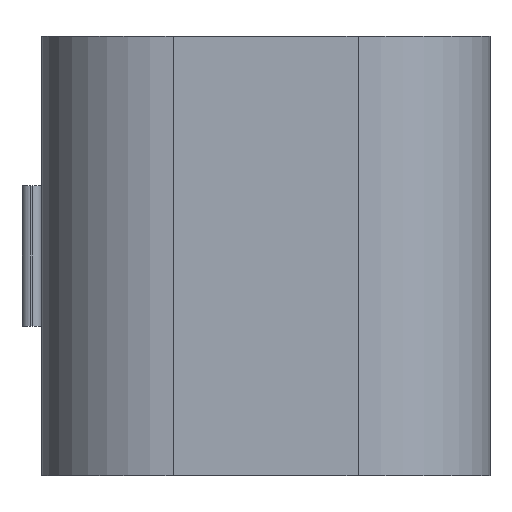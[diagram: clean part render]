
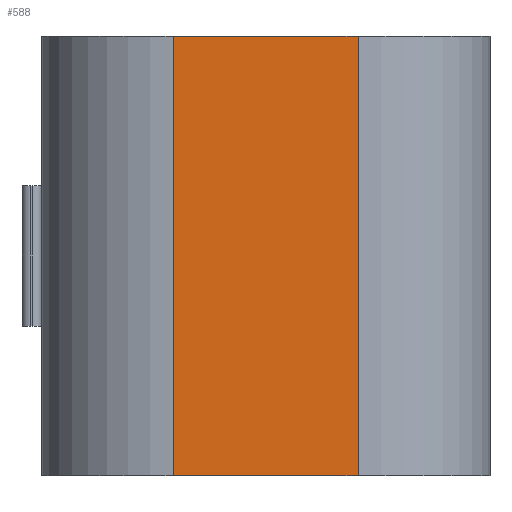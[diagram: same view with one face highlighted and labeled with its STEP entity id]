
A CAD part, front view. The second image highlights one B-rep face of the part: STEP entity #588.
In plain terms, the highlighted planar face has unit normal (0, -1, 0).
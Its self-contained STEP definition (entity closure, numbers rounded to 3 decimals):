
#66 = PLANE('',#67);
#67 = AXIS2_PLACEMENT_3D('',#68,#69,#70);
#68 = CARTESIAN_POINT('',(-2.55,-13.7,6.));
#69 = DIRECTION('',(0.,0.,1.));
#70 = DIRECTION('',(1.,0.,0.));
#94 = CYLINDRICAL_SURFACE('',#95,1.5);
#95 = AXIS2_PLACEMENT_3D('',#96,#97,#98);
#96 = CARTESIAN_POINT('',(-1.05,-12.2,1.));
#97 = DIRECTION('',(0.,0.,1.));
#98 = DIRECTION('',(-1.,-0.,0.));
#122 = PLANE('',#123);
#123 = AXIS2_PLACEMENT_3D('',#124,#125,#126);
#124 = CARTESIAN_POINT('',(-2.55,-13.7,1.));
#125 = DIRECTION('',(0.,0.,1.));
#126 = DIRECTION('',(1.,0.,0.));
#165 = VERTEX_POINT('',#166);
#166 = CARTESIAN_POINT('',(-1.05,-13.7,6.));
#188 = EDGE_CURVE('',#165,#189,#191,.T.);
#189 = VERTEX_POINT('',#190);
#190 = CARTESIAN_POINT('',(1.05,-13.7,6.));
#191 = SURFACE_CURVE('',#192,(#196,#203),.PCURVE_S1.);
#192 = LINE('',#193,#194);
#193 = CARTESIAN_POINT('',(-2.55,-13.7,6.));
#194 = VECTOR('',#195,1.);
#195 = DIRECTION('',(1.,0.,0.));
#196 = PCURVE('',#66,#197);
#197 = DEFINITIONAL_REPRESENTATION('',(#198),#202);
#198 = LINE('',#199,#200);
#199 = CARTESIAN_POINT('',(0.,0.));
#200 = VECTOR('',#201,1.);
#201 = DIRECTION('',(1.,0.));
#202 = ( GEOMETRIC_REPRESENTATION_CONTEXT(2) 
PARAMETRIC_REPRESENTATION_CONTEXT() REPRESENTATION_CONTEXT('2D SPACE',''
  ) );
#203 = PCURVE('',#204,#209);
#204 = PLANE('',#205);
#205 = AXIS2_PLACEMENT_3D('',#206,#207,#208);
#206 = CARTESIAN_POINT('',(-2.55,-13.7,1.));
#207 = DIRECTION('',(0.,1.,0.));
#208 = DIRECTION('',(0.,0.,1.));
#209 = DEFINITIONAL_REPRESENTATION('',(#210),#214);
#210 = LINE('',#211,#212);
#211 = CARTESIAN_POINT('',(5.,0.));
#212 = VECTOR('',#213,1.);
#213 = DIRECTION('',(0.,1.));
#214 = ( GEOMETRIC_REPRESENTATION_CONTEXT(2) 
PARAMETRIC_REPRESENTATION_CONTEXT() REPRESENTATION_CONTEXT('2D SPACE',''
  ) );
#237 = CYLINDRICAL_SURFACE('',#238,1.5);
#238 = AXIS2_PLACEMENT_3D('',#239,#240,#241);
#239 = CARTESIAN_POINT('',(1.05,-12.2,1.));
#240 = DIRECTION('',(0.,0.,1.));
#241 = DIRECTION('',(1.,0.,-0.));
#364 = VERTEX_POINT('',#365);
#365 = CARTESIAN_POINT('',(-1.05,-13.7,1.));
#387 = EDGE_CURVE('',#364,#165,#388,.T.);
#388 = SURFACE_CURVE('',#389,(#393,#400),.PCURVE_S1.);
#389 = LINE('',#390,#391);
#390 = CARTESIAN_POINT('',(-1.05,-13.7,1.));
#391 = VECTOR('',#392,1.);
#392 = DIRECTION('',(0.,0.,1.));
#393 = PCURVE('',#94,#394);
#394 = DEFINITIONAL_REPRESENTATION('',(#395),#399);
#395 = LINE('',#396,#397);
#396 = CARTESIAN_POINT('',(1.571,0.));
#397 = VECTOR('',#398,1.);
#398 = DIRECTION('',(0.,1.));
#399 = ( GEOMETRIC_REPRESENTATION_CONTEXT(2) 
PARAMETRIC_REPRESENTATION_CONTEXT() REPRESENTATION_CONTEXT('2D SPACE',''
  ) );
#400 = PCURVE('',#204,#401);
#401 = DEFINITIONAL_REPRESENTATION('',(#402),#406);
#402 = LINE('',#403,#404);
#403 = CARTESIAN_POINT('',(0.,1.5));
#404 = VECTOR('',#405,1.);
#405 = DIRECTION('',(1.,0.));
#406 = ( GEOMETRIC_REPRESENTATION_CONTEXT(2) 
PARAMETRIC_REPRESENTATION_CONTEXT() REPRESENTATION_CONTEXT('2D SPACE',''
  ) );
#469 = EDGE_CURVE('',#364,#470,#472,.T.);
#470 = VERTEX_POINT('',#471);
#471 = CARTESIAN_POINT('',(1.05,-13.7,1.));
#472 = SURFACE_CURVE('',#473,(#477,#484),.PCURVE_S1.);
#473 = LINE('',#474,#475);
#474 = CARTESIAN_POINT('',(-2.55,-13.7,1.));
#475 = VECTOR('',#476,1.);
#476 = DIRECTION('',(1.,0.,0.));
#477 = PCURVE('',#122,#478);
#478 = DEFINITIONAL_REPRESENTATION('',(#479),#483);
#479 = LINE('',#480,#481);
#480 = CARTESIAN_POINT('',(0.,0.));
#481 = VECTOR('',#482,1.);
#482 = DIRECTION('',(1.,0.));
#483 = ( GEOMETRIC_REPRESENTATION_CONTEXT(2) 
PARAMETRIC_REPRESENTATION_CONTEXT() REPRESENTATION_CONTEXT('2D SPACE',''
  ) );
#484 = PCURVE('',#204,#485);
#485 = DEFINITIONAL_REPRESENTATION('',(#486),#490);
#486 = LINE('',#487,#488);
#487 = CARTESIAN_POINT('',(0.,0.));
#488 = VECTOR('',#489,1.);
#489 = DIRECTION('',(0.,1.));
#490 = ( GEOMETRIC_REPRESENTATION_CONTEXT(2) 
PARAMETRIC_REPRESENTATION_CONTEXT() REPRESENTATION_CONTEXT('2D SPACE',''
  ) );
#588 = ADVANCED_FACE('',(#589),#204,.F.);
#589 = FACE_BOUND('',#590,.F.);
#590 = EDGE_LOOP('',(#591,#592,#593,#594));
#591 = ORIENTED_EDGE('',*,*,#469,.F.);
#592 = ORIENTED_EDGE('',*,*,#387,.T.);
#593 = ORIENTED_EDGE('',*,*,#188,.T.);
#594 = ORIENTED_EDGE('',*,*,#595,.F.);
#595 = EDGE_CURVE('',#470,#189,#596,.T.);
#596 = SURFACE_CURVE('',#597,(#601,#608),.PCURVE_S1.);
#597 = LINE('',#598,#599);
#598 = CARTESIAN_POINT('',(1.05,-13.7,1.));
#599 = VECTOR('',#600,1.);
#600 = DIRECTION('',(0.,0.,1.));
#601 = PCURVE('',#204,#602);
#602 = DEFINITIONAL_REPRESENTATION('',(#603),#607);
#603 = LINE('',#604,#605);
#604 = CARTESIAN_POINT('',(0.,3.6));
#605 = VECTOR('',#606,1.);
#606 = DIRECTION('',(1.,0.));
#607 = ( GEOMETRIC_REPRESENTATION_CONTEXT(2) 
PARAMETRIC_REPRESENTATION_CONTEXT() REPRESENTATION_CONTEXT('2D SPACE',''
  ) );
#608 = PCURVE('',#237,#609);
#609 = DEFINITIONAL_REPRESENTATION('',(#610),#614);
#610 = LINE('',#611,#612);
#611 = CARTESIAN_POINT('',(-1.571,0.));
#612 = VECTOR('',#613,1.);
#613 = DIRECTION('',(-0.,1.));
#614 = ( GEOMETRIC_REPRESENTATION_CONTEXT(2) 
PARAMETRIC_REPRESENTATION_CONTEXT() REPRESENTATION_CONTEXT('2D SPACE',''
  ) );
